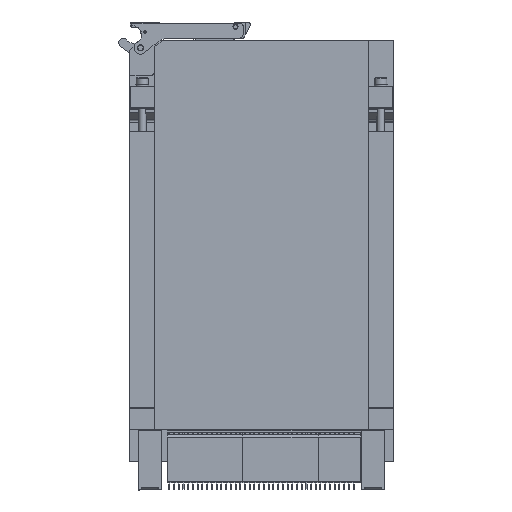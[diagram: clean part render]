
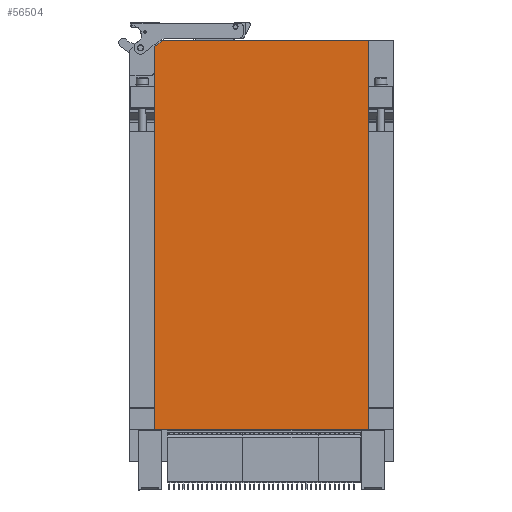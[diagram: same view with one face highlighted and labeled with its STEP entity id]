
A CAD part, left-side view. The second image highlights one B-rep face of the part: STEP entity #56504.
In plain terms, the highlighted planar face has unit normal (-1, 0, 0) as drawn and (0, 0, 1) by its records, which use the part's own axes.
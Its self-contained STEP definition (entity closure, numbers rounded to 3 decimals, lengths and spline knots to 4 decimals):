
#371 = DIRECTION ( 'NONE',  ( 0., 1., 0. ) ) ;
#843 = ORIENTED_EDGE ( 'NONE', *, *, #47345, .F. ) ;
#2329 = DIRECTION ( 'NONE',  ( 0., 0., -1. ) ) ;
#2488 = AXIS2_PLACEMENT_3D ( 'NONE', #12268, #2329, #53763 ) ;
#3911 = EDGE_CURVE ( 'NONE', #104206, #63928, #90693, .T. ) ;
#10219 = VERTEX_POINT ( 'NONE', #64385 ) ;
#12268 = CARTESIAN_POINT ( 'NONE',  ( -5.489, 0., 0. ) ) ;
#14064 = PLANE ( 'NONE',  #2488 ) ;
#16844 = DIRECTION ( 'NONE',  ( 0.629, -0.777, 0. ) ) ;
#18016 = VECTOR ( 'NONE', #16844, 39.3701 ) ;
#20897 = VERTEX_POINT ( 'NONE', #91195 ) ;
#23883 = ORIENTED_EDGE ( 'NONE', *, *, #77554, .F. ) ;
#26298 = CARTESIAN_POINT ( 'NONE',  ( 0., 3.4385, 0. ) ) ;
#28534 = CARTESIAN_POINT ( 'NONE',  ( -5.814, 0.375, 0. ) ) ;
#33054 = ORIENTED_EDGE ( 'NONE', *, *, #3911, .F. ) ;
#35713 = LINE ( 'NONE', #52265, #58362 ) ;
#42939 = LINE ( 'NONE', #48985, #75341 ) ;
#47345 = EDGE_CURVE ( 'NONE', #20897, #91679, #75474, .T. ) ;
#48985 = CARTESIAN_POINT ( 'NONE',  ( -5.489, 3.562, 0. ) ) ;
#49586 = VECTOR ( 'NONE', #68477, 39.3701 ) ;
#49718 = DIRECTION ( 'NONE',  ( 0., -1., 0. ) ) ;
#49828 = ORIENTED_EDGE ( 'NONE', *, *, #83162, .F. ) ;
#52265 = CARTESIAN_POINT ( 'NONE',  ( -5.814, 0., 0. ) ) ;
#53763 = DIRECTION ( 'NONE',  ( -1., 0., 0. ) ) ;
#56504 = ADVANCED_FACE ( 'NONE', ( #72768 ), #14064, .F. ) ;
#58362 = VECTOR ( 'NONE', #371, 39.3701 ) ;
#58456 = DIRECTION ( 'NONE',  ( 1., 0., 0. ) ) ;
#59635 = CARTESIAN_POINT ( 'NONE',  ( -0.1, 3.562, 0. ) ) ;
#63928 = VERTEX_POINT ( 'NONE', #26298 ) ;
#64385 = CARTESIAN_POINT ( 'NONE',  ( -5.814, 3.562, 0. ) ) ;
#68395 = EDGE_LOOP ( 'NONE', ( #33054, #49828, #23883, #843, #83602 ) ) ;
#68477 = DIRECTION ( 'NONE',  ( -1., 0., 0. ) ) ;
#72768 = FACE_OUTER_BOUND ( 'NONE', #68395, .T. ) ;
#75341 = VECTOR ( 'NONE', #58456, 39.3701 ) ;
#75474 = LINE ( 'NONE', #101464, #49586 ) ;
#77554 = EDGE_CURVE ( 'NONE', #91679, #10219, #35713, .T. ) ;
#83162 = EDGE_CURVE ( 'NONE', #10219, #104206, #42939, .T. ) ;
#83602 = ORIENTED_EDGE ( 'NONE', *, *, #91569, .F. ) ;
#87964 = LINE ( 'NONE', #131069, #118755 ) ;
#90693 = LINE ( 'NONE', #119842, #18016 ) ;
#91195 = CARTESIAN_POINT ( 'NONE',  ( 0., 0.375, 0. ) ) ;
#91569 = EDGE_CURVE ( 'NONE', #63928, #20897, #87964, .T. ) ;
#91679 = VERTEX_POINT ( 'NONE', #28534 ) ;
#101464 = CARTESIAN_POINT ( 'NONE',  ( -5.489, 0.375, 0. ) ) ;
#104206 = VERTEX_POINT ( 'NONE', #59635 ) ;
#118755 = VECTOR ( 'NONE', #49718, 39.3701 ) ;
#119842 = CARTESIAN_POINT ( 'NONE',  ( -0.1, 3.562, 0. ) ) ;
#131069 = CARTESIAN_POINT ( 'NONE',  ( 0., 0., 0. ) ) ;
